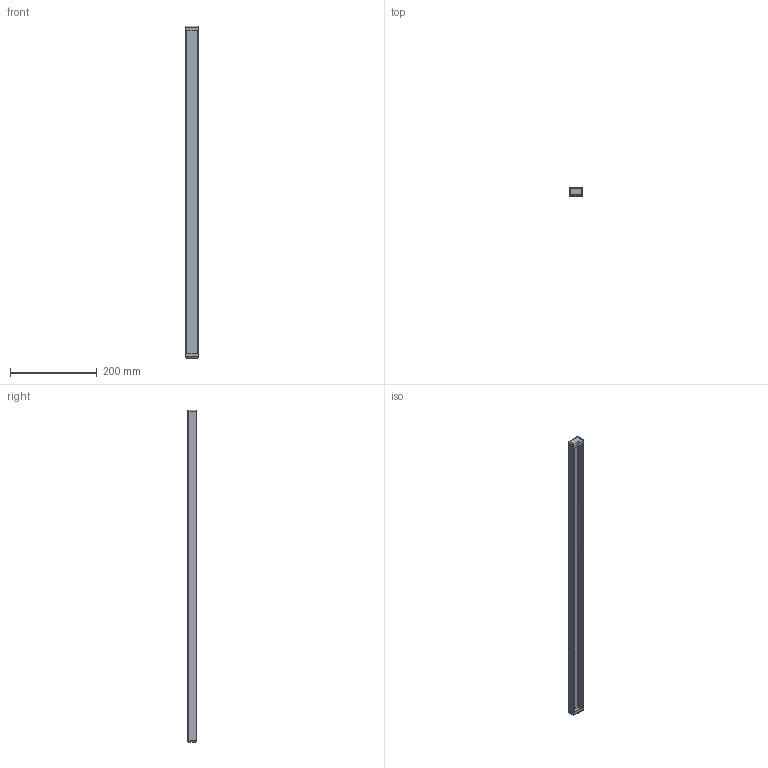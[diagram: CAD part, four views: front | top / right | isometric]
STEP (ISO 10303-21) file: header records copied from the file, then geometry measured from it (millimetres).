
FILE_DESCRIPTION (( 'STEP AP203' ), '1' );
FILE_NAME ('GB 80 R Ïëàíêà çàùèòíàÿ.STEP', '2013-01-09T15:49:48', ( 'System' ), ( '' ), 'SwSTEP 2.0', 'SolidWorks 2012', '' );
FILE_SCHEMA (( 'CONFIG_CONTROL_DESIGN' ));
Length unit declared in the file: millimetre
Products named in the file (1): GB 80 R Ïëàíêà çàùèòíàÿ
Bounding box: 32 x 20 x 764 mm (x, y, z)
Volume: 78918.7 mm3; surface area: 107554.6 mm2
Topology: 1 solids, 1 shells, 43 faces, 96 edges, 48 vertices
Faces by surface type: cylinder 20, plane 15, sphere 8
Entity records: 1167 total; most frequent: CARTESIAN_POINT 204, DIRECTION 192, ORIENTED_EDGE 176, EDGE_CURVE 88, AXIS2_PLACEMENT_3D 68, VECTOR 56, LINE 56, VERTEX_POINT 48
